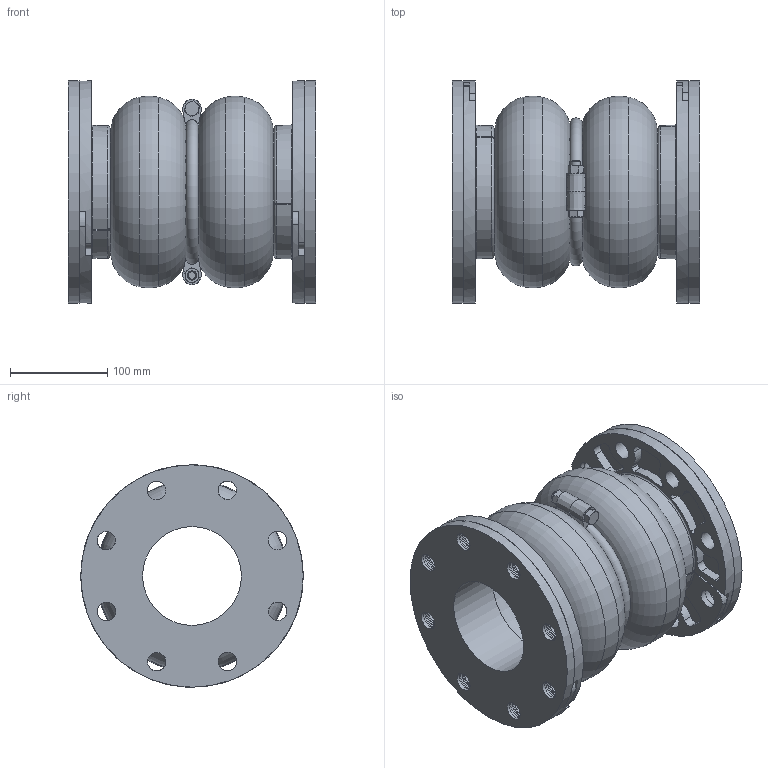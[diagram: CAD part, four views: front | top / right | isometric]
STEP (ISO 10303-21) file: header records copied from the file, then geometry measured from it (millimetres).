
FILE_DESCRIPTION((''),'2;1');
FILE_NAME('C:\2011_Work\Designs\Mercer\Stock Joints\450 Style\452\STEP\Style452 4x10.stp','2013-07-26T17:07:44',('mquog'),(''),'Autodesk Inventor 2011','Autodesk Inventor 2011','');
FILE_SCHEMA(('AUTOMOTIVE_DESIGN { 1 0 10303 214 1 1 1 1 }'));
Length unit declared in the file: inch
Products named in the file (6): Style452 4x10; 4DI450BUR150-1; 4_MBR; Hex Nut - Inch 3/8 - 16; Hex Bolt - Inch 3/8-16 UNC - 2; 452 4x10
Assembly tree (11 placements, depth 2):
  Style452 4x10
    4DI450BUR150-1  x4
    4_MBR  x2
    Hex Nut - Inch 3/8 - 16  x2
    Hex Bolt - Inch 3/8-16 UNC - 2  x2
    452 4x10
Bounding box: 254 x 228.6 x 228.6 mm (x, y, z)
Volume: 3693168.5 mm3; surface area: 2922150.8 mm2
Topology: 43 solids, 43 shells, 705 faces, 1674 edges, 1067 vertices
Faces by surface type: cylinder 347, plane 186, torus 108, cone 48, bspline 16
Full cylindrical faces by diameter (mm): 7.798 x2, 9.525 x2, 9.855 x2, 11.113 x4, 14.275 x2, 19.05 x117, 101.6 x3, 107.95 x6, 114.3 x12, 118.364 x6, 122.428 x8, 125.603 x3, 133.35 x6, 222.25 x12, 228.6 x2
Entity records: 13496 total; most frequent: CARTESIAN_POINT 3576, DIRECTION 2098, ORIENTED_EDGE 1426, AXIS2_PLACEMENT_3D 1001, EDGE_LOOP 979, EDGE_CURVE 713, VERTEX_POINT 610, CIRCLE 554
